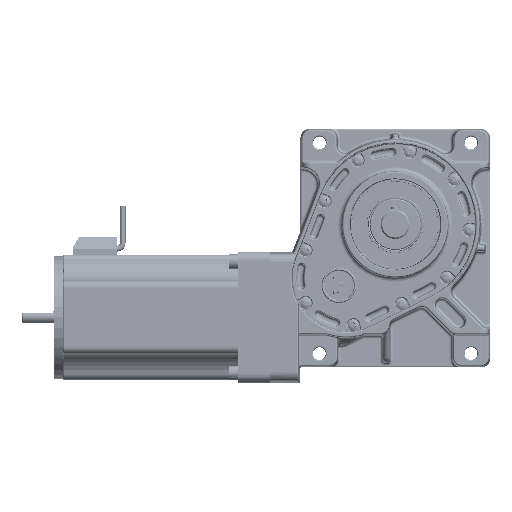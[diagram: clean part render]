
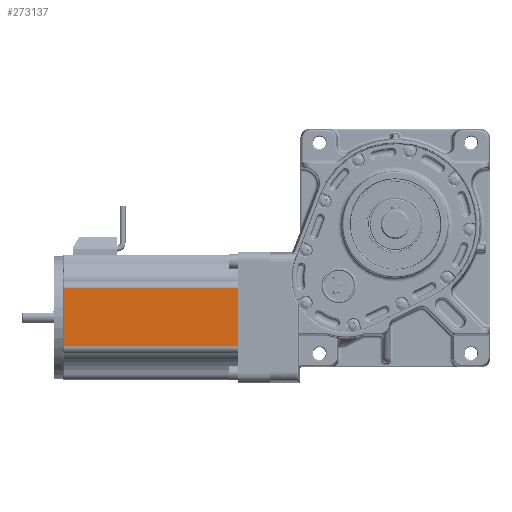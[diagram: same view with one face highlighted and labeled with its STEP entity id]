
A CAD part, top view. The second image highlights one B-rep face of the part: STEP entity #273137.
In plain terms, the highlighted planar face has unit normal (0, 0, 1).
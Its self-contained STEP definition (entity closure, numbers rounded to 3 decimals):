
#7505 = CARTESIAN_POINT ( 'NONE',  ( -174.219, -48.129, 80.402 ) ) ;
#16160 = VECTOR ( 'NONE', #251281, 1000. ) ;
#30020 = CARTESIAN_POINT ( 'NONE',  ( -305.719, -48.129, 80.402 ) ) ;
#32322 = VERTEX_POINT ( 'NONE', #192603 ) ;
#40139 = EDGE_LOOP ( 'NONE', ( #62148, #99402, #137102, #116957 ) ) ;
#62148 = ORIENTED_EDGE ( 'NONE', *, *, #236925, .T. ) ;
#76722 = PLANE ( 'NONE',  #126613 ) ;
#78143 = CARTESIAN_POINT ( 'NONE',  ( -186.719, -71.091, 80.402 ) ) ;
#79492 = DIRECTION ( 'NONE',  ( 0., 0., -1. ) ) ;
#91571 = EDGE_CURVE ( 'NONE', #184177, #152724, #99351, .T. ) ;
#99333 = DIRECTION ( 'NONE',  ( 0., 1., 0. ) ) ;
#99351 = LINE ( 'NONE', #78143, #101536 ) ;
#99402 = ORIENTED_EDGE ( 'NONE', *, *, #91571, .F. ) ;
#101536 = VECTOR ( 'NONE', #124575, 1000. ) ;
#116957 = ORIENTED_EDGE ( 'NONE', *, *, #214607, .T. ) ;
#124575 = DIRECTION ( 'NONE',  ( 0., -1., 0. ) ) ;
#126613 = AXIS2_PLACEMENT_3D ( 'NONE', #247016, #79492, #99333 ) ;
#129314 = CARTESIAN_POINT ( 'NONE',  ( -186.719, -48.129, 80.402 ) ) ;
#134795 = VECTOR ( 'NONE', #223094, 1000. ) ;
#137102 = ORIENTED_EDGE ( 'NONE', *, *, #163704, .T. ) ;
#152724 = VERTEX_POINT ( 'NONE', #129314 ) ;
#152892 = LINE ( 'NONE', #7505, #134795 ) ;
#161469 = LINE ( 'NONE', #207837, #16160 ) ;
#163704 = EDGE_CURVE ( 'NONE', #184177, #32322, #161469, .T. ) ;
#167237 = VERTEX_POINT ( 'NONE', #223797 ) ;
#180866 = DIRECTION ( 'NONE',  ( 0., -1., 0. ) ) ;
#184177 = VERTEX_POINT ( 'NONE', #189434 ) ;
#189434 = CARTESIAN_POINT ( 'NONE',  ( -186.719, -8.053, 80.402 ) ) ;
#192603 = CARTESIAN_POINT ( 'NONE',  ( -305.719, -8.053, 80.402 ) ) ;
#207837 = CARTESIAN_POINT ( 'NONE',  ( -174.219, -8.053, 80.402 ) ) ;
#210520 = FACE_OUTER_BOUND ( 'NONE', #40139, .T. ) ;
#214607 = EDGE_CURVE ( 'NONE', #32322, #167237, #265210, .T. ) ;
#223094 = DIRECTION ( 'NONE',  ( 1., 0., 0. ) ) ;
#223797 = CARTESIAN_POINT ( 'NONE',  ( -305.719, -48.129, 80.402 ) ) ;
#236925 = EDGE_CURVE ( 'NONE', #167237, #152724, #152892, .T. ) ;
#247016 = CARTESIAN_POINT ( 'NONE',  ( -174.219, -71.091, 80.402 ) ) ;
#251281 = DIRECTION ( 'NONE',  ( -1., 0., 0. ) ) ;
#265210 = LINE ( 'NONE', #30020, #269656 ) ;
#269656 = VECTOR ( 'NONE', #180866, 1000. ) ;
#273137 = ADVANCED_FACE ( 'NONE', ( #210520 ), #76722, .F. ) ;
